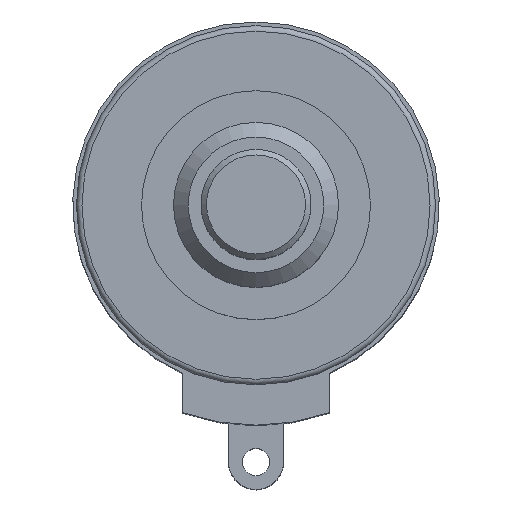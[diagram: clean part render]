
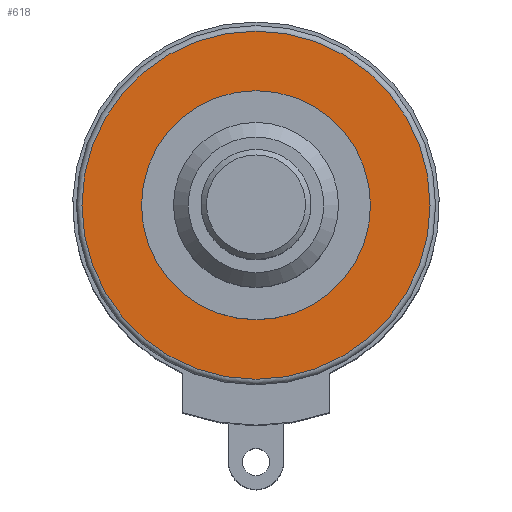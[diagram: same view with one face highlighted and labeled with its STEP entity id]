
A CAD part, top view. The second image highlights one B-rep face of the part: STEP entity #618.
In plain terms, the highlighted planar face has unit normal (0, 0, 1).
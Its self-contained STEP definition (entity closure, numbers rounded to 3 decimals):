
#54 = CARTESIAN_POINT ( 'NONE',  ( -9.5, 0., 1.2 ) ) ;
#74 = CIRCLE ( 'NONE', #665, 6.25 ) ;
#114 = CIRCLE ( 'NONE', #1111, 9.5 ) ;
#147 = ORIENTED_EDGE ( 'NONE', *, *, #1149, .T. ) ;
#205 = AXIS2_PLACEMENT_3D ( 'NONE', #1108, #837, #474 ) ;
#241 = VERTEX_POINT ( 'NONE', #54 ) ;
#365 = CARTESIAN_POINT ( 'NONE',  ( 0., 0., 1.2 ) ) ;
#380 = FACE_OUTER_BOUND ( 'NONE', #1007, .T. ) ;
#467 = DIRECTION ( 'NONE',  ( 0., 0., 1. ) ) ;
#471 = PLANE ( 'NONE',  #205 ) ;
#474 = DIRECTION ( 'NONE',  ( -1., 0., 0. ) ) ;
#501 = DIRECTION ( 'NONE',  ( 1., 0., 0. ) ) ;
#514 = CARTESIAN_POINT ( 'NONE',  ( 0., 0., 1.2 ) ) ;
#517 = VERTEX_POINT ( 'NONE', #574 ) ;
#574 = CARTESIAN_POINT ( 'NONE',  ( 6.25, 0., 1.2 ) ) ;
#618 = ADVANCED_FACE ( 'NONE', ( #380, #757 ), #471, .F. ) ;
#664 = DIRECTION ( 'NONE',  ( -1., 0., 0. ) ) ;
#665 = AXIS2_PLACEMENT_3D ( 'NONE', #514, #1169, #501 ) ;
#680 = EDGE_LOOP ( 'NONE', ( #930 ) ) ;
#757 = FACE_BOUND ( 'NONE', #680, .T. ) ;
#837 = DIRECTION ( 'NONE',  ( 0., 0., -1. ) ) ;
#851 = EDGE_CURVE ( 'NONE', #517, #517, #74, .T. ) ;
#930 = ORIENTED_EDGE ( 'NONE', *, *, #851, .F. ) ;
#1007 = EDGE_LOOP ( 'NONE', ( #147 ) ) ;
#1108 = CARTESIAN_POINT ( 'NONE',  ( 0., 0., 1.2 ) ) ;
#1111 = AXIS2_PLACEMENT_3D ( 'NONE', #365, #467, #664 ) ;
#1149 = EDGE_CURVE ( 'NONE', #241, #241, #114, .T. ) ;
#1169 = DIRECTION ( 'NONE',  ( 0., 0., 1. ) ) ;
